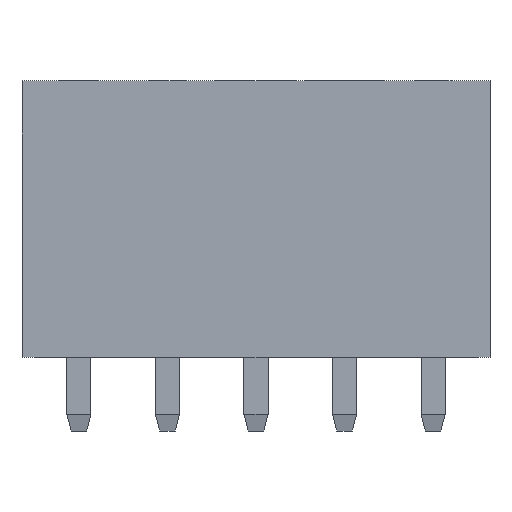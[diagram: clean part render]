
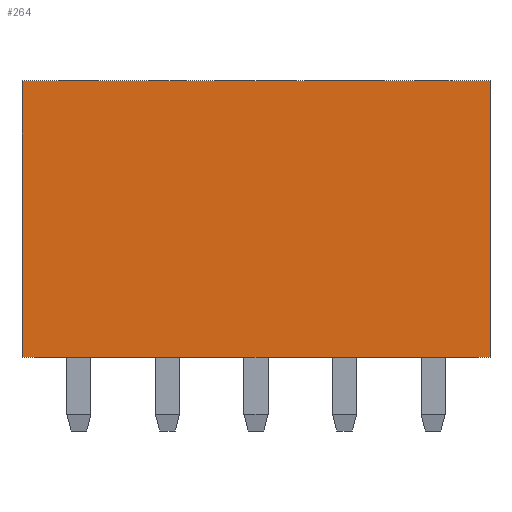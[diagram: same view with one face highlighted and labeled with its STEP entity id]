
A CAD part, top view. The second image highlights one B-rep face of the part: STEP entity #264.
In plain terms, the highlighted planar face has unit normal (0, 0, 1).
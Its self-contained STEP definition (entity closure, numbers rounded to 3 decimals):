
#212=CARTESIAN_POINT('Vertex',(11.1,13.1,5.4)) ;
#215=CARTESIAN_POINT('Line Origine',(11.1,6.55,5.4)) ;
#219=CARTESIAN_POINT('Vertex',(11.1,0.,5.4)) ;
#234=CARTESIAN_POINT('Axis2P3D Location',(0.,0.,5.4)) ;
#239=CARTESIAN_POINT('Line Origine',(0.,0.,5.4)) ;
#243=CARTESIAN_POINT('Vertex',(-11.1,0.,5.4)) ;
#246=CARTESIAN_POINT('Line Origine',(0.,13.1,5.4)) ;
#250=CARTESIAN_POINT('Vertex',(-11.1,13.1,5.4)) ;
#253=CARTESIAN_POINT('Line Origine',(-11.1,6.55,5.4)) ;
#216=DIRECTION('Vector Direction',(0.,1.,0.)) ;
#235=DIRECTION('Axis2P3D Direction',(0.,-0.,1.)) ;
#236=DIRECTION('Axis2P3D XDirection',(0.,1.,0.)) ;
#240=DIRECTION('Vector Direction',(-1.,0.,0.)) ;
#247=DIRECTION('Vector Direction',(-1.,0.,0.)) ;
#254=DIRECTION('Vector Direction',(0.,1.,0.)) ;
#237=AXIS2_PLACEMENT_3D('Plane Axis2P3D',#234,#235,#236) ;
#259=ORIENTED_EDGE('',*,*,#245,.F.) ;
#260=ORIENTED_EDGE('',*,*,#221,.T.) ;
#261=ORIENTED_EDGE('',*,*,#252,.T.) ;
#262=ORIENTED_EDGE('',*,*,#257,.F.) ;
#217=VECTOR('Line Direction',#216,1.) ;
#241=VECTOR('Line Direction',#240,1.) ;
#248=VECTOR('Line Direction',#247,1.) ;
#255=VECTOR('Line Direction',#254,1.) ;
#264=ADVANCED_FACE('\X2\96F64EF651E04F554F53\X0\',(#263),#238,.T.) ;
#221=EDGE_CURVE('',#220,#213,#218,.T.) ;
#245=EDGE_CURVE('',#220,#244,#242,.T.) ;
#252=EDGE_CURVE('',#213,#251,#249,.T.) ;
#257=EDGE_CURVE('',#244,#251,#256,.T.) ;
#258=EDGE_LOOP('',(#259,#260,#261,#262)) ;
#263=FACE_OUTER_BOUND('',#258,.T.) ;
#218=LINE('Line',#215,#217) ;
#242=LINE('Line',#239,#241) ;
#249=LINE('Line',#246,#248) ;
#256=LINE('Line',#253,#255) ;
#238=PLANE('Plane',#237) ;
#213=VERTEX_POINT('',#212) ;
#220=VERTEX_POINT('',#219) ;
#244=VERTEX_POINT('',#243) ;
#251=VERTEX_POINT('',#250) ;
